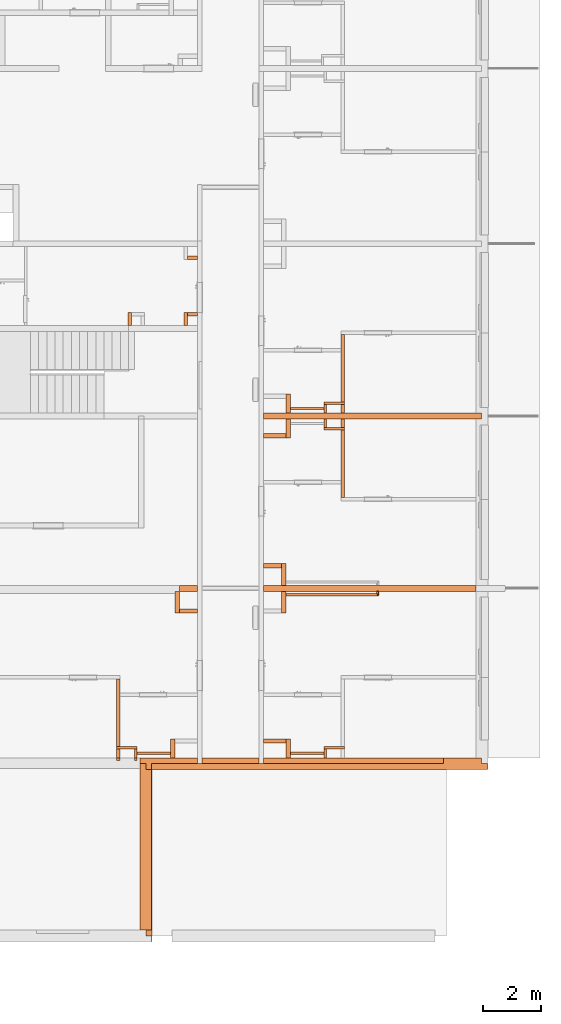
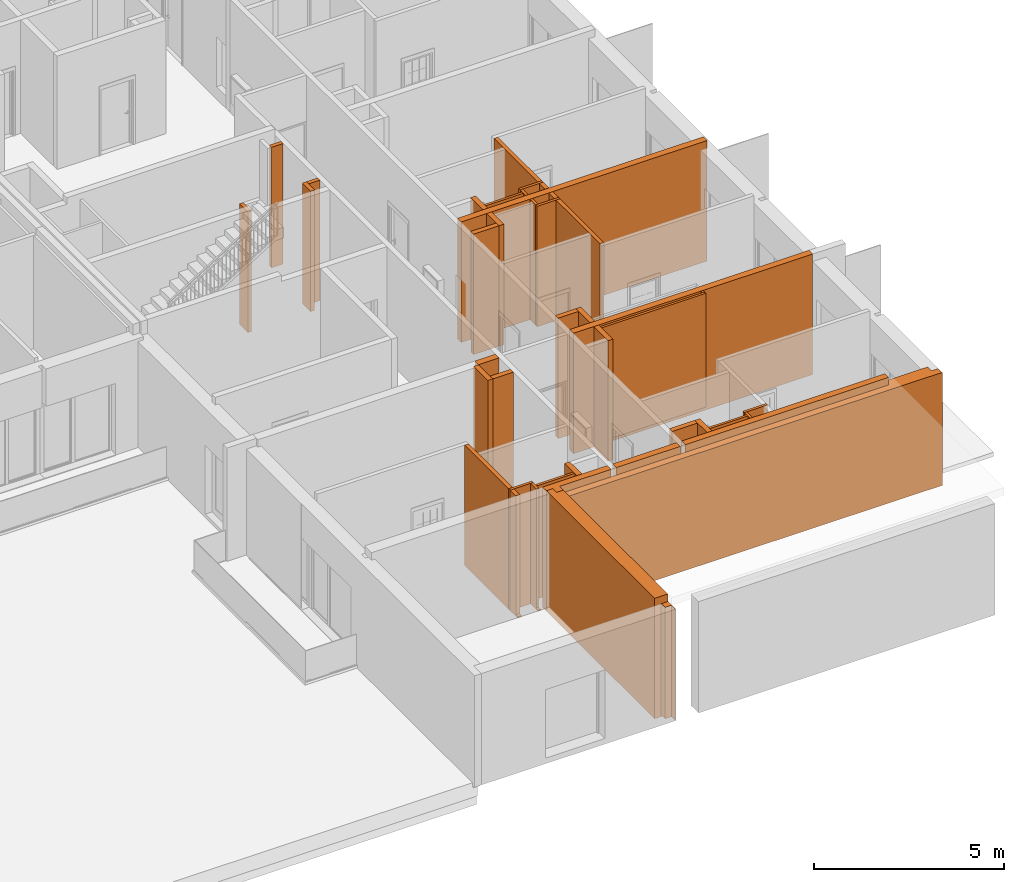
# One storey, part 44 of 46: 36 proxies.
"""IFC2X3 building model written with IfcOpenShell, lengths in millimetres."""

from ifc_helpers import new_model, entity, si_unit, converted_unit, derived_unit, money_unit, direction, frame, origin_with_axes, place, context, subcontext, project, spatial, faceted_brep, material, material_list, type_object, element, save


model = new_model("IFC2X3")

# Units and contexts
model_context = context("Model", 3, precision=0.01, world=origin_with_axes(), true_north=direction((0.34421633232, 0.938890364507)))
body_context = subcontext(model_context, "Body", "Model", "MODEL_VIEW")
ifc_project = project(units=[si_unit("LENGTHUNIT", "METRE", prefix="MILLI"), si_unit("AREAUNIT", "SQUARE_METRE"), si_unit("VOLUMEUNIT", "CUBIC_METRE"), converted_unit("PLANEANGLEUNIT", "DEGREE", entity("IfcPlaneAngleMeasure", 0.0174532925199), si_unit("PLANEANGLEUNIT", "RADIAN"), dimensions=[0, 0, 0, 0, 0, 0, 0]), si_unit("SOLIDANGLEUNIT", "STERADIAN"), money_unit("USD"), converted_unit("TIMEUNIT", "Year", entity("IfcTimeMeasure", 31556926.0), si_unit("TIMEUNIT", "SECOND"), dimensions=[0, 0, 1, 0, 0, 0, 0]), si_unit("MASSUNIT", "GRAM", prefix="KILO"), si_unit("THERMODYNAMICTEMPERATUREUNIT", "DEGREE_CELSIUS"), si_unit("LUMINOUSINTENSITYUNIT", "LUMEN"), si_unit("ENERGYUNIT", "JOULE", prefix="MEGA"), derived_unit("THERMALCONDUCTANCEUNIT", [(si_unit("POWERUNIT", "WATT"), 1), (si_unit("LENGTHUNIT", "METRE"), -1), (si_unit("THERMODYNAMICTEMPERATUREUNIT", "KELVIN"), -1)]), derived_unit("SPECIFICHEATCAPACITYUNIT", [(si_unit("ENERGYUNIT", "JOULE"), 1), (si_unit("MASSUNIT", "GRAM", prefix="KILO"), -1), (si_unit("THERMODYNAMICTEMPERATUREUNIT", "KELVIN"), -1)]), derived_unit("MASSDENSITYUNIT", [(si_unit("MASSUNIT", "GRAM", prefix="KILO"), 1), (si_unit("VOLUMEUNIT", "CUBIC_METRE"), -1)])], contexts=[model_context])

# Site, building, storey
site_placement = place(None, origin_with_axes())
site = spatial("IfcSite", under=ifc_project, at=site_placement, Name="USTRONIE MORSKIE", CompositionType="ELEMENT")
building_placement = place(site_placement, origin_with_axes())
building = spatial("IfcBuilding", under=site, at=building_placement, Name="Budynek", CompositionType="ELEMENT")
storey_placement = place(building_placement, origin_with_axes())
storey = spatial("IfcBuildingStorey", under=building, at=storey_placement, Name="PARTER", CompositionType="ELEMENT", Elevation=0.0)

# Proxies
ifc_material_1 = material(Name="Bloczki silikatowe")
building_element_proxy_type_1 = type_object("IfcBuildingElementProxyType", Name="Bloczki silikatowe 120", PredefinedType="NOTDEFINED")
proxy_1_placement = place(storey_placement, frame((413217.920919, 715101.199036, -230.0), z_axis=(0.0, 0.0, 1.0), x_axis=(0.0, 1.0, 0.0)))
element("IfcBuildingElementProxy", 1, at=proxy_1_placement, inside=storey, type_object=building_element_proxy_type_1, material=ifc_material_1, Name="SW-04", context=body_context, shape_type="Brep", body=[
    faceted_brep([(400.01915523, 60.0, 3870.0), (100.0, 60.0, 3870.0), (100.0, -60.0, 3870.0), (400.01915523, -60.0, 3870.0), (0.0, 60.0, 50.0), (100.0, 60.0, 50.0), (400.01915523, 60.0, 0.0), (0.0, 60.0, 0.0), (100.0, -60.0, 50.0), (0.0, -60.0, 50.0), (0.0, -60.0, 0.0), (400.01915523, -60.0, 0.0)], [[[0, 1, 2, 3]], [[4, 5, 1, 0, 6, 7]], [[5, 8, 2, 1]], [[2, 8, 9, 10, 11, 3]], [[6, 0, 3, 11]], [[4, 9, 8, 5]], [[6, 11, 10, 7]], [[10, 9, 4, 7]]]),
    faceted_brep([(480.01915523, 60.0, 3870.0), (480.01915523, -60.0, 3870.0), (2790.01935038, -60.0, 3870.0), (2790.01935038, 60.0, 3870.0), (480.01915523, -60.0, 0.0), (480.01915523, 60.0, 0.0), (2790.01935038, -60.0, 0.0), (2790.01935038, 60.0, 0.0)], [[[0, 1, 2, 3]], [[4, 1, 0, 5]], [[1, 4, 6, 2]], [[3, 2, 6, 7]], [[5, 0, 3, 7]], [[4, 5, 7, 6]]]),
])
proxy_2_placement = place(storey_placement, frame((420917.920919, 726901.199036, -230.0), z_axis=(0.0, 0.0, 1.0), x_axis=(0.0, 1.0, 0.0)))
element("IfcBuildingElementProxy", 2, at=proxy_2_placement, inside=storey, type_object=building_element_proxy_type_1, material=ifc_material_1, Name="SW-04", context=body_context, shape_type="Brep", body=[
    faceted_brep([(400.01915523, -60.0, 3870.0), (400.01915523, 60.0, 3870.0), (99.9999999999, 60.0, 3870.0), (99.9999999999, -60.0, 3870.0), (400.01915523, -60.0, 0.0), (400.01915523, 60.0, 0.0), (99.9999999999, 60.0, 0.0), (99.9999999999, -60.0, 0.0)], [[[0, 1, 2, 3]], [[1, 0, 4, 5]], [[1, 5, 6, 2]], [[7, 3, 2, 6]], [[4, 0, 3, 7]], [[5, 4, 7, 6]]]),
    faceted_brep([(2790.01935038, -60.0, 3870.0), (2790.01935038, 60.0, 3870.0), (480.01915523, 60.0, 3870.0), (480.01915523, -60.0, 3870.0), (2790.01935038, -60.0, 0.0), (2790.01935038, 60.0, 0.0), (480.01915523, 60.0, 0.0), (480.01915523, -60.0, 0.0)], [[[0, 1, 2, 3]], [[1, 0, 4, 5]], [[1, 5, 6, 2]], [[7, 3, 2, 6]], [[4, 0, 3, 7]], [[5, 4, 7, 6]]]),
])
proxy_3_placement = place(storey_placement, frame((420917.920919, 726901.199036, -230.0), z_axis=(0.0, 0.0, 1.0), x_axis=(0.0, -1.0, 0.0)))
element("IfcBuildingElementProxy", 3, at=proxy_3_placement, inside=storey, type_object=building_element_proxy_type_1, material=ifc_material_1, Name="SW-04", context=body_context, shape_type="Brep", body=[
    faceted_brep([(400.01915523, 60.0, 0.0), (99.9999999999, 60.0, 0.0), (99.9999999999, 60.0, 3869.99998101), (400.01915523, 60.0, 3870.0), (400.01915523, -60.0, 0.0), (99.9999999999, -60.0, 0.0), (99.9999999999, -60.0, 3869.99998101), (400.01915523, -60.0, 3870.0)], [[[0, 1, 2, 3]], [[4, 5, 1, 0]], [[5, 6, 2, 1]], [[3, 2, 6, 7]], [[3, 7, 4, 0]], [[7, 6, 5, 4]]]),
    faceted_brep([(480.01915523, -60.0, 0.0), (480.01915523, 60.0, 0.0), (2790.01935038, 60.0, 0.0), (2790.01935038, -60.0, 0.0), (480.01915523, -60.0, 3870.0), (480.01915523, 60.0, 3870.0), (2790.01935038, 60.0, 3870.0), (2790.01935038, -60.0, 3870.0)], [[[0, 1, 2, 3]], [[1, 0, 4, 5]], [[1, 5, 6, 2]], [[7, 3, 2, 6]], [[4, 0, 3, 7]], [[5, 4, 7, 6]]]),
])
proxy_4_placement = place(storey_placement, frame((415587.920919, 730321.199036, -230.0), z_axis=(0.0, 0.0, 1.0), x_axis=(1.0, 0.0, 0.0)))
element("IfcBuildingElementProxy", 4, at=proxy_4_placement, inside=storey, type_object=building_element_proxy_type_1, material=ifc_material_1, Name="SW-04", context=body_context, shape_type="Brep", body=[
    faceted_brep([(350.0, 120.0, 0.0), (350.0, 0.0, 0.0), (0.0, 0.0, 0.0), (0.0, 120.0, 0.0), (350.0, 120.0, 3870.0), (350.0, 0.0, 3870.0), (0.0, 0.0, 3870.0), (0.0, 120.0, 3870.0)], [[[0, 1, 2, 3]], [[1, 0, 4, 5]], [[1, 5, 6, 2]], [[7, 3, 2, 6]], [[4, 0, 3, 7]], [[5, 4, 7, 6]]]),
])
proxy_5_placement = place(storey_placement, frame((415587.920919, 732381.199036, -230.0), z_axis=(0.0, 0.0, 1.0), x_axis=(1.0, 0.0, 0.0)))
element("IfcBuildingElementProxy", 5, at=proxy_5_placement, inside=storey, type_object=building_element_proxy_type_1, material=ifc_material_1, Name="SW-04", context=body_context, shape_type="Brep", body=[
    faceted_brep([(350.0, -120.0, 3870.0), (350.0, 0.0, 3870.0), (0.0, 0.0, 3870.0), (0.0, -120.0, 3870.0), (350.0, -120.0, 0.0), (350.0, 0.0, 0.0), (0.0, 0.0, 0.0), (0.0, -120.0, 0.0)], [[[0, 1, 2, 3]], [[1, 0, 4, 5]], [[1, 5, 6, 2]], [[7, 3, 2, 6]], [[4, 0, 3, 7]], [[5, 4, 7, 6]]]),
])
for number, where, z_axis, x_axis, name in (
    (6, (413677.920919, 729901.199036, -230.0), (0.0, 0.0, 1.0), (0.0, 1.0, 0.0), "SW-04"),
    (7, (415587.920919, 729901.199036, -230.0), (0.0, 0.0, 1.0), (0.0, 1.0, 0.0), "SW-04"),
):
    element("IfcBuildingElementProxy", number, at=place(storey_placement, frame(where, z_axis=z_axis, x_axis=x_axis)), inside=storey, type_object=building_element_proxy_type_1, material=ifc_material_1, Name=name, context=body_context, shape_type="Brep", body=[
        faceted_brep([(540.0, 120.0, 0.0), (540.0, 0.0, 0.0), (99.9999999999, 0.0, 0.0), (99.9999999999, 120.0, 0.0), (540.0, 120.0, 3870.0), (540.0, 0.0, 3870.0), (99.9999999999, 0.0, 3870.0), (99.9999999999, 120.0, 3870.0)], [[[0, 1, 2, 3]], [[1, 0, 4, 5]], [[1, 5, 6, 2]], [[7, 3, 2, 6]], [[4, 0, 3, 7]], [[5, 4, 7, 6]]]),
    ])
ifc_material_2 = material(Name="Beton konstrukcyjny B25")
ifc_material_3 = material(Name="Wełna ELEW")
ifc_material_4 = material(Name="Tynk zewnętrzny")
ifc_material_list_1 = material_list([ifc_material_2, ifc_material_3, ifc_material_4])
building_element_proxy_type_2 = type_object("IfcBuildingElementProxyType", Name="20+20 410", PredefinedType="NOTDEFINED")
proxy_6_placement = place(storey_placement, frame((413967.920919, 715101.199036, -230.0), z_axis=(0.0, 0.0, 1.0), x_axis=(1.0, 0.0, 0.0)))
element("IfcBuildingElementProxy", 8, at=proxy_6_placement, inside=storey, type_object=building_element_proxy_type_2, material=ifc_material_list_1, Name="SZ-01", context=body_context, shape_type="Brep", body=[
    faceted_brep([(11700.0, -100.0, 0.0), (11700.0, 100.0, 0.0), (11700.0, 99.9999999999, 3630.0), (11700.0, -100.0, 3630.0), (4230.0, 100.0, 0.0), (4230.0, -100.0, 0.0), (11500.0, 99.9999999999, 3629.99999896), (4230.0, 100.000001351, 3870.0), (10400.0, 100.0, 3870.0), (10400.0, 100.0, 3630.0), (10400.0, -100.0, 3630.0), (11500.0, -100.0, 3629.99999896), (10400.0, -100.0, 3870.0), (4230.0, -100.000008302, 3870.0)], [[[0, 1, 2, 3]], [[4, 1, 0, 5]], [[6, 2, 1, 4, 7, 8, 9]], [[10, 11, 3, 2, 6, 9]], [[5, 0, 3, 11, 10, 12, 13]], [[13, 7, 4, 5]], [[13, 12, 8, 7]], [[10, 9, 8, 12]]]),
    faceted_brep([(0.0, 100.000002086, 3870.0), (1970.0, 100.000001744, 3870.0), (1970.0, 100.0, 0.0), (0.0, 100.0, 0.0), (0.0, 100.000002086, 50.0), (1970.0, -100.000010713, 3870.0), (0.0, -100.000012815, 3870.0), (1970.0, -100.0, 0.0), (0.0, -100.0, 0.0), (0.0, -100.000012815, 50.0)], [[[0, 1, 2, 3, 4]], [[5, 1, 0, 6]], [[5, 7, 2, 1]], [[3, 2, 7, 8]], [[3, 8, 9, 4]], [[4, 9, 6, 0]], [[8, 7, 5, 6, 9]]]),
    faceted_brep([(2130.0, 100.000001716, 3870.0), (4070.0, 100.000001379, 3870.0), (4070.0, 100.0, 0.0), (2130.0, 100.0, 0.0), (2130.0, -100.000010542, 3870.0), (4070.0, -100.000008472, 3870.0), (4070.0, -100.0, 0.0), (2130.0, -100.0, 0.0)], [[[0, 1, 2, 3]], [[1, 0, 4, 5]], [[5, 6, 2, 1]], [[3, 2, 6, 7]], [[4, 0, 3, 7]], [[7, 6, 5, 4]]]),
    faceted_brep([(400.0, -100.0, 3870.0), (400.0, -100.0, 3630.0), (10300.0, -100.0, 3630.0), (10400.0, -100.000006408, 3630.0), (11900.0, -100.0, 3630.0), (11900.0, -100.0, 0.0), (200.0, -100.0, 0.0), (200.0, -100.000004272, 3870.0), (400.0, -300.00002665, 3870.0), (400.0, -300.0, 3630.0), (10300.0, -300.0, 3630.0), (10400.0, -300.0, 3630.0), (11900.0, -300.0, 3630.0), (11900.0, -300.0, 0.0), (200.0, -300.0, 0.0), (200.0, -300.000027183, 3870.0)], [[[0, 1, 2, 3, 4, 5, 6, 7]], [[1, 0, 8, 9]], [[2, 1, 9, 10, 11, 12, 4, 3]], [[13, 5, 4, 12]], [[6, 5, 13, 14]], [[14, 15, 7, 6]], [[8, 0, 7, 15]], [[9, 8, 15, 14, 13, 12, 11, 10]]]),
    faceted_brep([(400.0, -300.000008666, 3630.0), (10300.0, -300.0, 3630.0), (10400.0, -300.0, 3630.0), (11910.0000097, -300.0, 3629.99999896), (11910.0000097, -300.0, 0.0), (400.0, -300.0, 0.0), (10300.0, -310.0, 3630.0), (400.0, -310.0, 3630.0), (10400.0, -310.0, 3630.0), (11910.0000097, -310.0, 3629.99999896), (11910.0000097, -310.0, 0.0), (400.0, -310.0, 0.0)], [[[0, 1, 2, 3, 4, 5]], [[6, 1, 0, 7]], [[1, 6, 8, 9, 3, 2]], [[4, 3, 9, 10]], [[10, 11, 5, 4]], [[7, 0, 5, 11]], [[6, 7, 11, 10, 9, 8]]]),
])
proxy_7_placement = place(storey_placement, frame((413967.920919, 709201.199036, -430.0), z_axis=(0.0, 0.0, 1.0), x_axis=(0.0, 1.0, 0.0)))
element("IfcBuildingElementProxy", 9, at=proxy_7_placement, inside=storey, type_object=building_element_proxy_type_2, material=ifc_material_list_1, Name="SZ-01", context=body_context, shape_type="Brep", body=[
    faceted_brep([(100.0, -200.0, 200.0), (5799.99999979, -200.0, 200.0), (5799.99999573, -200.0, 4070.0), (100.0, -200.0, 4070.0), (5799.99999658, 0.0, 200.0), (100.0, 0.0, 200.0), (5799.99999573, 0.0, 250.0), (5799.99999573, 0.0, 4070.0), (100.0, 0.0, 4070.0)], [[[0, 1, 2, 3]], [[4, 1, 0, 5]], [[1, 4, 6, 7, 2]], [[7, 8, 3, 2]], [[5, 0, 3, 8]], [[4, 5, 8, 7, 6]]]),
    faceted_brep([(100.0, -400.0, 200.0), (5600.0, -400.0, 200.0), (5599.99999076, -400.0, 4070.0), (100.0, -400.0, 4070.0), (100.0, -400.0, 3830.0), (-100.0, -400.0, 3830.0), (-100.0, -400.0, 250.0), (100.0, -400.0, 250.0), (5600.0, -200.0, 200.0), (100.0, -200.0, 200.0), (5599.99999076, -200.0, 4070.0), (100.0, -200.0, 4070.0), (100.0, -200.0, 3830.0), (-100.0, -200.0, 3830.0), (-100.0, -200.0, 250.0), (100.0, -200.0, 250.0)], [[[0, 1, 2, 3, 4, 5, 6, 7]], [[8, 1, 0, 9]], [[1, 8, 10, 2]], [[10, 11, 3, 2]], [[12, 4, 3, 11]], [[13, 5, 4, 12]], [[6, 5, 13, 14]], [[7, 6, 14, 15]], [[9, 0, 7, 15]], [[8, 9, 15, 14, 13, 12, 11, 10]]]),
    faceted_brep([(100.0, -410.0, 200.0), (5590.0, -410.0, 200.0), (5590.0, -410.0, 3830.0), (100.0, -410.0, 3830.0), (-300.0, -410.0, 3830.0), (-300.0, -410.0, 250.0), (-260.0, -410.0, 250.0), (100.0, -410.0, 250.0), (5590.0, -400.0, 200.0), (100.0, -400.0, 200.0), (5590.0, -400.0, 3830.0), (100.0, -400.0, 3830.0), (-300.0, -400.0, 3830.0), (-300.0, -400.0, 250.0), (-260.0, -400.0, 250.0), (100.0, -400.0, 250.0)], [[[0, 1, 2, 3, 4, 5, 6, 7]], [[8, 1, 0, 9]], [[1, 8, 10, 2]], [[3, 2, 10, 11]], [[3, 11, 12, 4]], [[5, 4, 12, 13]], [[6, 5, 13, 14]], [[14, 15, 7, 6]], [[9, 0, 7, 15]], [[8, 9, 15, 14, 13, 12, 11, 10]]]),
])
ifc_material_5 = material(Name="-Pustka powietrzna")
ifc_material_6 = material(Name="Płyta GK")
ifc_material_list_2 = material_list([ifc_material_5, ifc_material_6, ifc_material_6])
building_element_proxy_type_3 = type_object("IfcBuildingElementProxyType", Name="330-SD GK 2-warstwy 75", PredefinedType="NOTDEFINED")
proxy_8_placement = place(storey_placement, frame((415092.920018, 715371.197725, -180.0), z_axis=(0.0, 0.0, 1.0), x_axis=(-1.0, 0.0, 0.0)))
element("IfcBuildingElementProxy", 10, at=proxy_8_placement, inside=storey, type_object=building_element_proxy_type_3, material=ifc_material_list_2, Name="Ściana-009", context=body_context, shape_type="Brep", body=[
    faceted_brep([(75.0, 50.0, 180.0), (75.0, 0.0, 180.0), (75.0, 0.0, 3820.0), (75.0, 50.0, 3820.0), (1234.99909883, 0.0, 180.0), (1234.99909883, 50.0, 180.0), (1234.99909883, 0.0, 3820.0), (1234.99909883, 50.0, 3820.0)], [[[0, 1, 2, 3]], [[4, 1, 0, 5]], [[1, 4, 6, 2]], [[6, 7, 3, 2]], [[5, 0, 3, 7]], [[4, 5, 7, 6]]]),
    faceted_brep([(75.0, 0.0, 165.0), (75.0, -12.5, 165.0), (75.0, -12.5, 3820.0), (75.0, 0.0, 3820.0), (1234.99909883, -12.5, 165.0), (1234.99909883, 0.0, 165.0), (1234.99909883, -12.5, 3820.0), (1234.99909883, 0.0, 3820.0)], [[[0, 1, 2, 3]], [[4, 1, 0, 5]], [[1, 4, 6, 2]], [[6, 7, 3, 2]], [[5, 0, 3, 7]], [[4, 5, 7, 6]]]),
    faceted_brep([(75.0, -12.5, 165.0), (75.0, -25.0, 165.0), (75.0, -25.0, 3820.0), (75.0, -12.5, 3820.0), (1234.99909883, -25.0, 165.0), (1234.99909883, -12.5, 165.0), (1234.99909883, -25.0, 3820.0), (1234.99909883, -12.5, 3820.0)], [[[0, 1, 2, 3]], [[4, 1, 0, 5]], [[1, 4, 6, 2]], [[6, 7, 3, 2]], [[5, 0, 3, 7]], [[4, 5, 7, 6]]]),
])
proxy_9_placement = place(storey_placement, frame((418817.920919, 720771.199036, -180.0), z_axis=(0.0, 0.0, 1.0), x_axis=(1.0, 0.0, 0.0)))
element("IfcBuildingElementProxy", 11, at=proxy_9_placement, inside=storey, type_object=building_element_proxy_type_3, material=ifc_material_list_2, Name="Ściana-009", context=body_context, shape_type="Brep", body=[
    faceted_brep([(3300.0, 0.0, 180.0), (3300.0, 50.0, 180.0), (3300.0, 50.0, 3820.0), (3300.0, 0.0, 3820.0), (150.0, 50.0, 180.0), (150.0, 0.0, 180.0), (150.0, 50.0, 3820.0), (150.0, 0.0, 3820.0)], [[[0, 1, 2, 3]], [[4, 1, 0, 5]], [[1, 4, 6, 2]], [[3, 2, 6, 7]], [[5, 0, 3, 7]], [[4, 5, 7, 6]]]),
    faceted_brep([(3312.5, -12.5, 165.0), (3312.5, 0.0, 165.0), (3312.5, 0.0, 3820.0), (3312.5, -12.5, 3820.0), (150.0, 0.0, 165.0), (150.0, -12.5, 165.0), (150.0, 0.0, 3820.0), (150.0, -12.5, 3820.0)], [[[0, 1, 2, 3]], [[4, 1, 0, 5]], [[1, 4, 6, 2]], [[3, 2, 6, 7]], [[5, 0, 3, 7]], [[4, 5, 7, 6]]]),
    faceted_brep([(3325.0, -25.0, 165.0), (3325.0, -12.5, 165.0), (3325.0, -12.5, 3820.0), (3325.0, -25.0, 3820.0), (150.0, -12.5, 165.0), (150.0, -25.0, 165.0), (150.0, -12.5, 3820.0), (150.0, -25.0, 3820.0)], [[[0, 1, 2, 3]], [[4, 1, 0, 5]], [[1, 4, 6, 2]], [[3, 2, 6, 7]], [[5, 0, 3, 7]], [[4, 5, 7, 6]]]),
])
proxy_10_placement = place(storey_placement, frame((420317.920919, 715371.197725, -180.0), z_axis=(0.0, 0.0, 1.0), x_axis=(-1.0, 0.0, 0.0)))
element("IfcBuildingElementProxy", 12, at=proxy_10_placement, inside=storey, type_object=building_element_proxy_type_3, material=ifc_material_list_2, Name="Ściana-009", context=body_context, shape_type="Brep", body=[
    faceted_brep([(40.0, 50.0, 180.0), (40.0, 0.0, 180.0), (40.0, 0.0, 3820.0), (40.0, 50.0, 3820.0), (1199.99909883, 0.0, 180.0), (1199.99909883, 50.0, 180.0), (1199.99909883, 0.0, 3820.0), (1199.99909883, 50.0, 3820.0)], [[[0, 1, 2, 3]], [[4, 1, 0, 5]], [[1, 4, 6, 2]], [[6, 7, 3, 2]], [[5, 0, 3, 7]], [[4, 5, 7, 6]]]),
    faceted_brep([(40.0, 0.0, 165.0), (40.0, -12.5, 165.0), (40.0, -12.5, 3820.0), (40.0, 0.0, 3820.0), (1199.99909883, -12.5, 165.0), (1199.99909883, 0.0, 165.0), (1199.99909883, -12.5, 3820.0), (1199.99909883, 0.0, 3820.0)], [[[0, 1, 2, 3]], [[4, 1, 0, 5]], [[1, 4, 6, 2]], [[6, 7, 3, 2]], [[5, 0, 3, 7]], [[4, 5, 7, 6]]]),
    faceted_brep([(40.0, -12.5, 165.0), (40.0, -25.0, 165.0), (40.0, -25.0, 3820.0), (40.0, -12.5, 3820.0), (1199.99909883, -25.0, 165.0), (1199.99909883, -12.5, 165.0), (1199.99909883, -25.0, 3820.0), (1199.99909883, -12.5, 3820.0)], [[[0, 1, 2, 3]], [[4, 1, 0, 5]], [[1, 4, 6, 2]], [[6, 7, 3, 2]], [[5, 0, 3, 7]], [[4, 5, 7, 6]]]),
])
ifc_material_list_3 = material_list([ifc_material_6, ifc_material_6, ifc_material_5])
proxy_11_placement = place(storey_placement, frame((422117.920919, 721001.199036, -180.0), z_axis=(0.0, 0.0, 1.0), x_axis=(0.0, -1.0, 0.0)))
element("IfcBuildingElementProxy", 13, at=proxy_11_placement, inside=storey, type_object=building_element_proxy_type_3, material=ifc_material_list_3, Name="Ściana-009", context=body_context, shape_type="Brep", body=[
    faceted_brep([(242.5, 25.0, 165.0), (100.0, 25.0, 165.0), (100.0, 25.0, 3820.0), (242.5, 25.0, 3820.0), (100.0, 12.5, 165.0), (242.5, 12.5, 165.0), (100.0, 12.5, 3820.0), (242.5, 12.5, 3820.0)], [[[0, 1, 2, 3]], [[4, 1, 0, 5]], [[1, 4, 6, 2]], [[3, 2, 6, 7]], [[5, 0, 3, 7]], [[4, 5, 7, 6]]]),
    faceted_brep([(230.0, 12.5, 165.0), (100.0, 12.5, 165.0), (100.0, 12.5, 3820.0), (230.0, 12.5, 3820.0), (100.0, 0.0, 165.0), (230.0, 0.0, 165.0), (100.0, 0.0, 3820.0), (230.0, 0.0, 3820.0)], [[[0, 1, 2, 3]], [[4, 1, 0, 5]], [[1, 4, 6, 2]], [[3, 2, 6, 7]], [[5, 0, 3, 7]], [[4, 5, 7, 6]]]),
    faceted_brep([(180.0, 0.0, 180.0), (100.0, 0.0, 180.0), (100.0, 0.0, 3820.0), (180.0, 0.0, 3820.0), (100.0, -50.0, 180.0), (180.0, -50.0, 180.0), (100.0, -50.0, 3820.0), (180.0, -50.0, 3820.0)], [[[0, 1, 2, 3]], [[4, 1, 0, 5]], [[1, 4, 6, 2]], [[3, 2, 6, 7]], [[5, 0, 3, 7]], [[4, 5, 7, 6]]]),
])
proxy_12_placement = place(storey_placement, frame((420317.920919, 727171.197725, -180.0), z_axis=(0.0, 0.0, 1.0), x_axis=(-1.0, 0.0, 0.0)))
element("IfcBuildingElementProxy", 14, at=proxy_12_placement, inside=storey, type_object=building_element_proxy_type_3, material=ifc_material_list_2, Name="Ściana-009", context=body_context, shape_type="Brep", body=[
    faceted_brep([(40.0, 50.0, 180.0), (40.0, 0.0, 180.0), (40.0, 0.0, 3820.0), (40.0, 50.0, 3820.0), (1199.99909883, 0.0, 180.0), (1199.99909883, 50.0, 180.0), (1199.99909883, 0.0, 3820.0), (1199.99909883, 50.0, 3820.0)], [[[0, 1, 2, 3]], [[4, 1, 0, 5]], [[1, 4, 6, 2]], [[6, 7, 3, 2]], [[5, 0, 3, 7]], [[4, 5, 7, 6]]]),
    faceted_brep([(40.0, 0.0, 165.0), (40.0, -12.5, 165.0), (40.0, -12.5, 3820.0), (40.0, 0.0, 3820.0), (1199.99909883, -12.5, 165.0), (1199.99909883, 0.0, 165.0), (1199.99909883, -12.5, 3820.0), (1199.99909883, 0.0, 3820.0)], [[[0, 1, 2, 3]], [[4, 1, 0, 5]], [[1, 4, 6, 2]], [[6, 7, 3, 2]], [[5, 0, 3, 7]], [[4, 5, 7, 6]]]),
    faceted_brep([(40.0, -12.5, 165.0), (40.0, -25.0, 165.0), (40.0, -25.0, 3820.0), (40.0, -12.5, 3820.0), (1199.99909883, -25.0, 165.0), (1199.99909883, -12.5, 165.0), (1199.99909883, -25.0, 3820.0), (1199.99909883, -12.5, 3820.0)], [[[0, 1, 2, 3]], [[4, 1, 0, 5]], [[1, 4, 6, 2]], [[6, 7, 3, 2]], [[5, 0, 3, 7]], [[4, 5, 7, 6]]]),
])
building_element_proxy_type_4 = type_object("IfcBuildingElementProxyType", Name="Bloczki silikatowe 80", PredefinedType="NOTDEFINED")
proxy_13_placement = place(storey_placement, frame((420917.920919, 727341.218191, -230.0), z_axis=(0.0, 0.0, 1.0), x_axis=(-1.0, 0.0, 0.0)))
element("IfcBuildingElementProxy", 15, at=proxy_13_placement, inside=storey, type_object=building_element_proxy_type_4, material=ifc_material_1, Name="Ściana-009", context=body_context, shape_type="Brep", body=[
    faceted_brep([(640.0, -40.0, 3870.0), (640.0, 40.0, 3870.0), (-60.0, 40.0, 3870.0), (-60.0, -40.0, 3870.0), (640.0, -40.0, 0.0), (640.0, 40.0, 0.0), (-60.0, 40.0, 0.0), (-60.0, -40.0, 0.0)], [[[0, 1, 2, 3]], [[1, 0, 4, 5]], [[1, 5, 6, 2]], [[7, 3, 2, 6]], [[4, 0, 3, 7]], [[5, 4, 7, 6]]]),
])
proxy_14_placement = place(storey_placement, frame((420917.920919, 726461.179881, -230.0), z_axis=(0.0, 0.0, 1.0), x_axis=(-1.0, 0.0, 0.0)))
element("IfcBuildingElementProxy", 16, at=proxy_14_placement, inside=storey, type_object=building_element_proxy_type_4, material=ifc_material_1, Name="Ściana-009", context=body_context, shape_type="Brep", body=[
    faceted_brep([(640.0, 40.0, 0.0), (640.0, -40.0, 0.0), (-60.0, -40.0, 0.0), (-60.0, 40.0, 0.0), (640.0, 40.0, 3870.0), (640.0, -40.0, 3870.0), (-60.0, -40.0, 3870.0), (-60.0, 40.0, 3870.0)], [[[0, 1, 2, 3]], [[1, 0, 4, 5]], [[1, 5, 6, 2]], [[7, 3, 2, 6]], [[4, 0, 3, 7]], [[5, 4, 7, 6]]]),
])
proxy_15_placement = place(storey_placement, frame((420317.920919, 726901.199036, -230.0), z_axis=(0.0, 0.0, 1.0), x_axis=(0.0, -1.0, 0.0)))
element("IfcBuildingElementProxy", 17, at=proxy_15_placement, inside=storey, type_object=building_element_proxy_type_4, material=ifc_material_1, Name="Ściana-010", context=body_context, shape_type="Brep", body=[
    faceted_brep([(400.01915523, 40.0, 0.0), (100.0, 40.0, 0.0), (100.0, 40.0, 3869.99998101), (400.01915523, 40.0, 3870.0), (400.01915523, -40.0, 0.0), (100.0, -40.0, 0.0), (100.0, -40.0, 3869.99998101), (400.01915523, -40.0, 3870.0)], [[[0, 1, 2, 3]], [[4, 5, 1, 0]], [[5, 6, 2, 1]], [[3, 2, 6, 7]], [[3, 7, 4, 0]], [[7, 6, 5, 4]]]),
])
proxy_16_placement = place(storey_placement, frame((413817.920919, 715101.199036, -230.0), z_axis=(0.0, 0.0, 1.0), x_axis=(0.0, 1.0, 0.0)))
element("IfcBuildingElementProxy", 18, at=proxy_16_placement, inside=storey, type_object=building_element_proxy_type_4, material=ifc_material_1, Name="Ściana-010", context=body_context, shape_type="Brep", body=[
    faceted_brep([(400.01915523, 40.0, 3870.0), (100.0, 40.0, 3870.0), (100.0, -40.0, 3870.0), (400.01915523, -40.0, 3870.0), (0.0, 40.0, 50.0), (100.0, 40.0, 50.0), (400.01915523, 40.0, 0.0), (0.0, 40.0, 0.0), (100.0, -40.0, 50.0), (0.0, -40.0, 50.0), (0.0, -40.0, 0.0), (400.01915523, -40.0, 0.0)], [[[0, 1, 2, 3]], [[4, 5, 1, 0, 6, 7]], [[5, 8, 2, 1]], [[2, 8, 9, 10, 11, 3]], [[6, 0, 3, 11]], [[4, 9, 8, 5]], [[6, 11, 10, 7]], [[10, 9, 4, 7]]]),
])
proxy_17_placement = place(storey_placement, frame((420917.920919, 715541.218191, -230.0), z_axis=(0.0, 0.0, 1.0), x_axis=(-1.0, 0.0, 0.0)))
element("IfcBuildingElementProxy", 19, at=proxy_17_placement, inside=storey, type_object=building_element_proxy_type_4, material=ifc_material_1, Name="Ściana-009", context=body_context, shape_type="Brep", body=[
    faceted_brep([(640.0, -40.0, 3870.0), (640.0, 40.0, 3870.0), (-60.0, 40.0, 3870.0), (-60.0, -40.0, 3870.0), (640.0, -40.0, 0.0), (640.0, 40.0, 0.0), (-60.0, 40.0, 0.0), (-60.0, -40.0, 0.0)], [[[0, 1, 2, 3]], [[1, 0, 4, 5]], [[1, 5, 6, 2]], [[7, 3, 2, 6]], [[4, 0, 3, 7]], [[5, 4, 7, 6]]]),
])
proxy_18_placement = place(storey_placement, frame((413217.920919, 715541.218191, -230.0), z_axis=(0.0, 0.0, 1.0), x_axis=(1.0, 0.0, 0.0)))
element("IfcBuildingElementProxy", 20, at=proxy_18_placement, inside=storey, type_object=building_element_proxy_type_4, material=ifc_material_1, Name="Ściana-009", context=body_context, shape_type="Brep", body=[
    faceted_brep([(640.0, 40.0, 0.0), (640.0, -40.0, 0.0), (-60.0, -40.0, 0.0), (-60.0, 40.0, 0.0), (640.0, 40.0, 3870.0), (640.0, -40.0, 3870.0), (-60.0, -40.0, 3870.0), (-60.0, 40.0, 3870.0)], [[[0, 1, 2, 3]], [[1, 0, 4, 5]], [[1, 5, 6, 2]], [[7, 3, 2, 6]], [[4, 0, 3, 7]], [[5, 4, 7, 6]]]),
])
for number, where, z_axis, x_axis in (
    (21, (420317.920919, 715101.199036, -230.0), (0.0, 0.0, 1.0), (0.0, 1.0, 0.0)),
    (22, (420317.920919, 726901.199036, -230.0), (0.0, 0.0, 1.0), (0.0, 1.0, 0.0)),
):
    element("IfcBuildingElementProxy", number, at=place(storey_placement, frame(where, z_axis=z_axis, x_axis=x_axis)), inside=storey, type_object=building_element_proxy_type_4, material=ifc_material_1, Name="Ściana-010", context=body_context, shape_type="Brep", body=[
        faceted_brep([(400.01915523, -40.0, 3870.0), (400.01915523, 40.0, 3870.0), (100.0, 40.0, 3870.0), (100.0, -40.0, 3870.0), (400.01915523, -40.0, 0.0), (400.01915523, 40.0, 0.0), (100.0, 40.0, 0.0), (100.0, -40.0, 0.0)], [[[0, 1, 2, 3]], [[1, 0, 4, 5]], [[1, 5, 6, 2]], [[7, 3, 2, 6]], [[4, 0, 3, 7]], [[5, 4, 7, 6]]]),
    ])
building_element_proxy_type_5 = type_object("IfcBuildingElementProxyType", Name="Bloczki silikatowe 150", PredefinedType="NOTDEFINED")
proxy_19_placement = place(storey_placement, frame((415317.920919, 721001.199074, -230.0), z_axis=(0.0, 0.0, 1.0), x_axis=(0.0, -1.0, 0.0)))
element("IfcBuildingElementProxy", 23, at=proxy_19_placement, inside=storey, type_object=building_element_proxy_type_5, material=ifc_material_1, Name="SW-03", context=body_context, shape_type="Brep", body=[
    faceted_brep([(850.000037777, 0.0, 0.0), (100.000037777, 0.0, 0.0), (100.000037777, 0.0, 3870.0), (850.000037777, 0.0, 3870.0), (850.000037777, -150.0, 0.0), (100.000037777, -150.0, 0.0), (100.000037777, -150.0, 3870.0), (850.000037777, -150.0, 3870.0)], [[[0, 1, 2, 3]], [[4, 5, 1, 0]], [[5, 6, 2, 1]], [[3, 2, 6, 7]], [[4, 0, 3, 7]], [[7, 6, 5, 4]]]),
])
proxy_20_placement = place(storey_placement, frame((415317.920919, 720301.199036, -230.0), z_axis=(0.0, 0.0, 1.0), x_axis=(1.0, 0.0, 0.0)))
element("IfcBuildingElementProxy", 24, at=proxy_20_placement, inside=storey, type_object=building_element_proxy_type_5, material=ifc_material_1, Name="SW-03", context=body_context, shape_type="Brep", body=[
    faceted_brep([(620.0, -150.0, 3870.0), (620.0, 0.0, 3870.0), (0.0, 0.0, 3870.0), (0.0, -150.0, 3870.0), (620.0, -150.0, 0.0), (620.0, 0.0, 0.0), (0.0, 0.0, 0.0), (0.0, -150.0, 0.0)], [[[0, 1, 2, 3]], [[1, 0, 4, 5]], [[1, 5, 6, 2]], [[7, 3, 2, 6]], [[4, 0, 3, 7]], [[5, 4, 7, 6]]]),
])
proxy_21_placement = place(storey_placement, frame((419042.92182, 715776.199481, -230.0), z_axis=(0.0, 0.0, 1.0), x_axis=(-1.0, 0.0, 0.0)))
element("IfcBuildingElementProxy", 25, at=proxy_21_placement, inside=storey, type_object=building_element_proxy_type_5, material=ifc_material_1, Name="Ściana-009", context=body_context, shape_type="Brep", body=[
    faceted_brep([(845.00090117, -75.0, 3870.0), (845.00090117, 75.0, 3870.0), (75.0, 75.0, 3870.0), (75.0, -75.0, 3870.0), (845.00090117, -75.0, 0.0), (845.00090117, 75.0, 0.0), (75.0, 75.0, 0.0), (75.0, -75.0, 0.0)], [[[0, 1, 2, 3]], [[1, 0, 4, 5]], [[1, 5, 6, 2]], [[7, 3, 2, 6]], [[4, 0, 3, 7]], [[5, 4, 7, 6]]]),
])
proxy_22_placement = place(storey_placement, frame((418817.920919, 721701.218191, -230.0), z_axis=(0.0, 0.0, 1.0), x_axis=(-1.0, 0.0, 0.0)))
element("IfcBuildingElementProxy", 26, at=proxy_22_placement, inside=storey, type_object=building_element_proxy_type_5, material=ifc_material_1, Name="SW-03", context=body_context, shape_type="Brep", body=[
    faceted_brep([(620.0, -150.0, 3870.0), (620.0, 0.0, 3870.0), (0.0, 0.0, 3870.0), (0.0, -150.0, 3870.0), (620.0, -150.0, 0.0), (620.0, 0.0, 0.0), (0.0, 0.0, 0.0), (0.0, -150.0, 0.0)], [[[0, 1, 2, 3]], [[1, 0, 4, 5]], [[1, 5, 6, 2]], [[7, 3, 2, 6]], [[4, 0, 3, 7]], [[5, 4, 7, 6]]]),
])
proxy_23_placement = place(storey_placement, frame((418817.920919, 721001.199074, -230.0), z_axis=(0.0, 0.0, 1.0), x_axis=(0.0, -1.0, 0.0)))
element("IfcBuildingElementProxy", 27, at=proxy_23_placement, inside=storey, type_object=building_element_proxy_type_5, material=ifc_material_1, Name="SW-03", context=body_context, shape_type="Brep", body=[
    faceted_brep([(850.025657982, 150.0, 0.0), (100.000037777, 150.0, 0.0), (100.000037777, 150.0, 3870.0), (850.025657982, 150.0, 3870.0), (850.025657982, 0.0, 0.0), (100.000037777, 0.0, 0.0), (100.000037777, 0.0, 3870.0), (850.025657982, 0.0, 3870.0)], [[[0, 1, 2, 3]], [[4, 5, 1, 0]], [[5, 6, 2, 1]], [[3, 2, 6, 7]], [[3, 7, 4, 0]], [[7, 6, 5, 4]]]),
])
proxy_24_placement = place(storey_placement, frame((419042.92182, 726226.198592, -230.0), z_axis=(0.0, 0.0, 1.0), x_axis=(-1.0, 0.0, 0.0)))
element("IfcBuildingElementProxy", 28, at=proxy_24_placement, inside=storey, type_object=building_element_proxy_type_5, material=ifc_material_1, Name="Ściana-009", context=body_context, shape_type="Brep", body=[
    faceted_brep([(845.00090117, 75.0, 0.0), (845.00090117, -75.0, 0.0), (75.0, -75.0, 0.0), (75.0, 75.0, 0.0), (845.00090117, 75.0, 3870.0), (845.00090117, -75.0, 3870.0), (75.0, -75.0, 3870.0), (75.0, 75.0, 3870.0)], [[[0, 1, 2, 3]], [[1, 0, 4, 5]], [[1, 5, 6, 2]], [[7, 3, 2, 6]], [[4, 0, 3, 7]], [[5, 4, 7, 6]]]),
])
proxy_25_placement = place(storey_placement, frame((419042.92182, 715101.199036, -230.0), z_axis=(0.0, 0.0, 1.0), x_axis=(0.0, 1.0, 0.0)))
element("IfcBuildingElementProxy", 29, at=proxy_25_placement, inside=storey, type_object=building_element_proxy_type_5, material=ifc_material_1, Name="Ściana-009", context=body_context, shape_type="Brep", body=[
    faceted_brep([(750.000444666, -75.0, 3870.0), (750.000444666, 75.0, 3870.0), (100.0, 75.0, 3870.0), (100.0, -75.0, 3870.0), (750.000444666, -75.0, 0.0), (750.000444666, 75.0, 0.0), (100.0, 75.0, 0.0), (100.0, -75.0, 0.0)], [[[0, 1, 2, 3]], [[1, 0, 4, 5]], [[1, 5, 6, 2]], [[7, 3, 2, 6]], [[4, 0, 3, 7]], [[5, 4, 7, 6]]]),
])
proxy_26_placement = place(storey_placement, frame((419042.92182, 726901.199036, -230.0), z_axis=(0.0, 0.0, 1.0), x_axis=(0.0, 1.0, 0.0)))
element("IfcBuildingElementProxy", 30, at=proxy_26_placement, inside=storey, type_object=building_element_proxy_type_5, material=ifc_material_1, Name="Ściana-009", context=body_context, shape_type="Brep", body=[
    faceted_brep([(750.000444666, 75.0, 3870.0), (100.0, 75.0, 3870.0), (100.0, -75.0, 3870.0), (750.000444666, -75.0, 3870.0), (750.000444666, 75.0, 0.0), (100.0, 75.0, 1.8987234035e-05), (100.0, -75.0, 1.8987234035e-05), (750.000444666, -75.0, 0.0)], [[[0, 1, 2, 3]], [[4, 5, 1, 0]], [[5, 6, 2, 1]], [[3, 2, 6, 7]], [[7, 4, 0, 3]], [[7, 6, 5, 4]]]),
])
proxy_27_placement = place(storey_placement, frame((415092.920018, 715101.199036, -230.0), z_axis=(0.0, 0.0, 1.0), x_axis=(0.0, 1.0, 0.0)))
element("IfcBuildingElementProxy", 31, at=proxy_27_placement, inside=storey, type_object=building_element_proxy_type_5, material=ifc_material_1, Name="Ściana-009", context=body_context, shape_type="Brep", body=[
    faceted_brep([(750.001977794, 75.0, 0.0), (750.001977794, -75.0, 0.0), (100.0, -75.0, 0.0), (100.0, 75.0, 0.0), (750.001977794, 75.0, 3870.0), (750.001977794, -75.0, 3870.0), (100.0, -75.0, 3870.0), (100.0, 75.0, 3870.0)], [[[0, 1, 2, 3]], [[1, 0, 4, 5]], [[1, 5, 6, 2]], [[7, 3, 2, 6]], [[4, 0, 3, 7]], [[5, 4, 7, 6]]]),
])
proxy_28_placement = place(storey_placement, frame((418817.920919, 721001.198998, -230.0), z_axis=(0.0, 0.0, 1.0), x_axis=(0.0, 1.0, 0.0)))
element("IfcBuildingElementProxy", 32, at=proxy_28_placement, inside=storey, type_object=building_element_proxy_type_5, material=ifc_material_1, Name="SW-03", context=body_context, shape_type="Brep", body=[
    faceted_brep([(850.019193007, -150.0, 3870.0), (850.019193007, 0.0, 3870.0), (100.000037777, 0.0, 3870.0), (100.000037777, -150.0, 3870.0), (850.019193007, -150.0, 0.0), (850.019193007, 0.0, 0.0), (100.000037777, 0.0, 0.0), (100.000037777, -150.0, 0.0)], [[[0, 1, 2, 3]], [[1, 0, 4, 5]], [[1, 5, 6, 2]], [[7, 3, 2, 6]], [[4, 0, 3, 7]], [[5, 4, 7, 6]]]),
])
proxy_29_placement = place(storey_placement, frame((419042.92182, 726901.199036, -230.0), z_axis=(0.0, 0.0, 1.0), x_axis=(0.0, -1.0, 0.0)))
element("IfcBuildingElementProxy", 33, at=proxy_29_placement, inside=storey, type_object=building_element_proxy_type_5, material=ifc_material_1, Name="Ściana-009", context=body_context, shape_type="Brep", body=[
    faceted_brep([(750.000444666, 75.0, 0.0), (750.000444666, -75.0, 0.0), (100.0, -75.0, 0.0), (100.0, 75.0, 0.0), (750.000444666, 75.0, 3870.0), (750.000444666, -75.0, 3870.0), (100.0, -75.0, 3870.0), (100.0, 75.0, 3870.0)], [[[0, 1, 2, 3]], [[1, 0, 4, 5]], [[1, 5, 6, 2]], [[7, 3, 2, 6]], [[4, 0, 3, 7]], [[5, 4, 7, 6]]]),
])
building_element_proxy_type_6 = type_object("IfcBuildingElementProxyType", Name="Beton konstrukcyjny B25 200", PredefinedType="NOTDEFINED")
proxy_30_placement = place(storey_placement, frame((425567.920919, 721001.199036, -230.0), z_axis=(0.0, 0.0, 1.0), x_axis=(-1.0, 0.0, 0.0)))
element("IfcBuildingElementProxy", 34, at=proxy_30_placement, inside=storey, type_object=building_element_proxy_type_6, material=ifc_material_2, Name="SW-01", context=body_context, shape_type="Brep", body=[
    faceted_brep([(100.0, -100.0, 0.0), (7370.0, -100.0, 0.0), (7370.0, -100.0, 3870.0), (100.0, -100.0, 3870.0), (100.0, 100.0, 0.0), (7370.0, 100.0, 0.0), (7370.0, 100.0, 3870.0), (100.0, 100.0, 3870.0)], [[[0, 1, 2, 3]], [[4, 5, 1, 0]], [[5, 6, 2, 1]], [[3, 2, 6, 7]], [[7, 4, 0, 3]], [[7, 6, 5, 4]]]),
])
proxy_31_placement = place(storey_placement, frame((425567.920919, 726901.199036, -230.0), z_axis=(0.0, 0.0, 1.0), x_axis=(-1.0, 0.0, 0.0)))
element("IfcBuildingElementProxy", 35, at=proxy_31_placement, inside=storey, type_object=building_element_proxy_type_6, material=ifc_material_2, Name="SW-01", context=body_context, shape_type="Brep", body=[
    faceted_brep([(-100.0, 100.0, 3870.0), (-100.0, 100.0, 0.0), (-100.0, -100.0, 0.0), (-100.0, -100.0, 3870.0), (7370.0, 100.0, 0.0), (7370.0, 100.0, 3870.0), (7370.0, -100.0, 0.0), (7370.0, -100.0, 3870.0)], [[[0, 1, 2, 3]], [[4, 1, 0, 5]], [[6, 2, 1, 4]], [[3, 2, 6, 7]], [[5, 0, 3, 7]], [[5, 7, 6, 4]]]),
])
proxy_32_placement = place(storey_placement, frame((416017.920919, 721001.199036, -230.0), z_axis=(0.0, 0.0, 1.0), x_axis=(-1.0, 0.0, 0.0)))
element("IfcBuildingElementProxy", 36, at=proxy_32_placement, inside=storey, type_object=building_element_proxy_type_6, material=ifc_material_2, Name="SW-01", context=body_context, shape_type="Brep", body=[
    faceted_brep([(700.0, 100.0, 3870.0), (80.0, 100.0, 3870.0), (80.0, -100.0, 3870.0), (700.0, -100.0, 3870.0), (700.0, 100.0, 0.0), (80.0, 100.0, 0.0), (80.0, -100.0, 0.0), (700.0, -100.0, 0.0)], [[[0, 1, 2, 3]], [[4, 5, 1, 0]], [[5, 6, 2, 1]], [[3, 2, 6, 7]], [[7, 4, 0, 3]], [[7, 6, 5, 4]]]),
])

save(model, "model.ifc")
